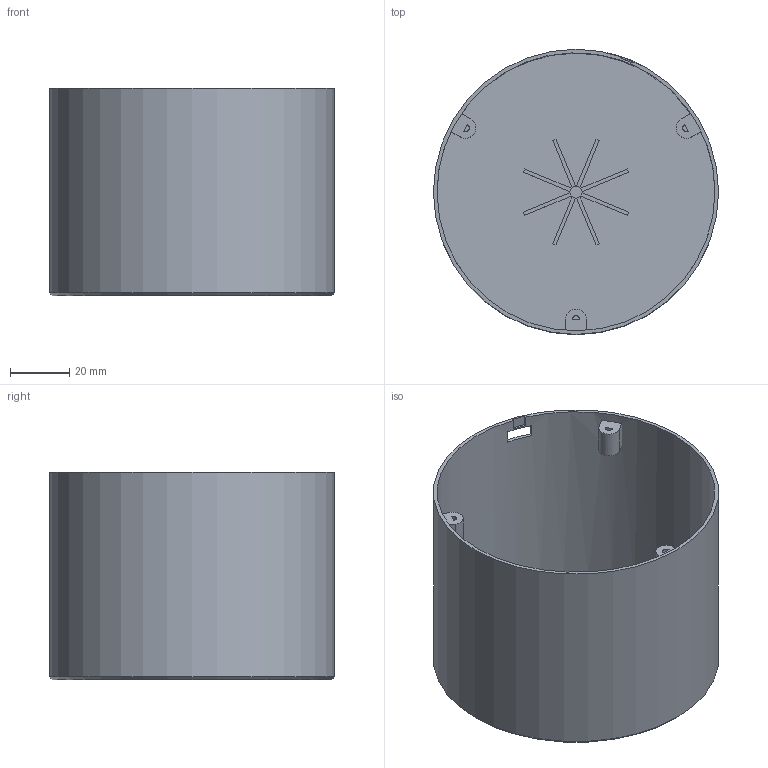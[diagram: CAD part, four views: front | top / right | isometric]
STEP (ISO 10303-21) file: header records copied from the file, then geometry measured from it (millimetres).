
FILE_DESCRIPTION(('Open CASCADE Model'),'2;1');
FILE_NAME('Open CASCADE Shape Model','2026-11-11T19:28:17',('Author'),( 'Open CASCADE'),'Open CASCADE STEP processor 7.9','Open CASCADE 7.9' ,'Unknown');
FILE_SCHEMA(('AUTOMOTIVE_DESIGN { 1 0 10303 214 1 1 1 1 }'));
Length unit declared in the file: millimetre
Products named in the file (1): Open CASCADE STEP translator 7.9 1
Bounding box: 96 x 96 x 70 mm (x, y, z)
Volume: 35010.2 mm3; surface area: 57742.8 mm2
Topology: 1 solids, 1 shells, 75 faces, 182 edges, 121 vertices
Faces by surface type: plane 66, cylinder 8, cone 1
Full cylindrical faces by diameter (mm): 93.6 x1, 96 x1
Entity records: 4620 total; most frequent: CARTESIAN_POINT 845, DIRECTION 710, LINE 489, VECTOR 489, ORIENTED_EDGE 364, PCURVE 364, DEFINITIONAL_REPRESENTATION 364, EDGE_CURVE 182
